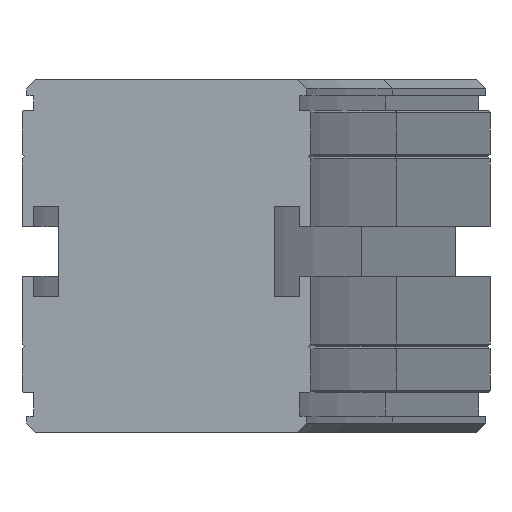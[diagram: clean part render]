
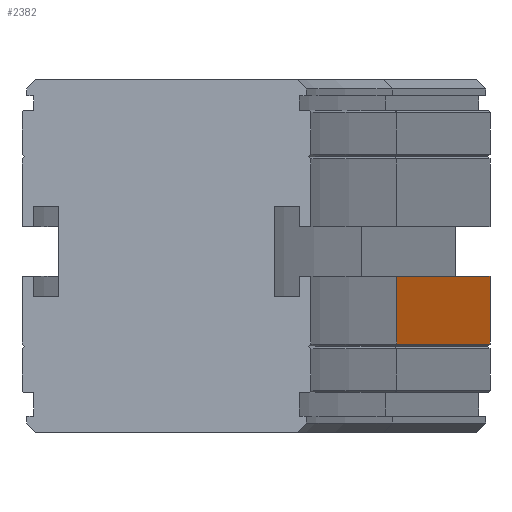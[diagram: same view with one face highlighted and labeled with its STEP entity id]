
A CAD part, left-side view. The second image highlights one B-rep face of the part: STEP entity #2382.
In plain terms, the highlighted planar face has unit normal (-0.259, -0.966, 0).
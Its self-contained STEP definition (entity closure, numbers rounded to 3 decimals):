
#2326=CARTESIAN_POINT('',(301.436,-71.685,-58.5));
#2327=VERTEX_POINT('',#2326);
#2334=CARTESIAN_POINT('',(224.162,-50.979,-58.5));
#2335=VERTEX_POINT('',#2334);
#2336=CARTESIAN_POINT('',(224.162,-50.979,-58.5));
#2337=DIRECTION('',(0.966,-0.259,0.0));
#2338=VECTOR('',#2337,80.);
#2339=LINE('',#2336,#2338);
#2340=EDGE_CURVE('',#2335,#2327,#2339,.T.);
#2352=CARTESIAN_POINT('',(224.162,-50.979,-58.5));
#2353=DIRECTION('',(-0.259,-0.966,0.));
#2354=DIRECTION('',(0.0,0.0,-1.0));
#2355=AXIS2_PLACEMENT_3D('',#2352,#2353,#2354);
#2356=PLANE('',#2355);
#2357=CARTESIAN_POINT('',(301.436,-71.685,-43.5));
#2358=VERTEX_POINT('',#2357);
#2359=CARTESIAN_POINT('',(301.436,-71.685,-58.5));
#2360=DIRECTION('',(0.0,0.0,1.0));
#2361=VECTOR('',#2360,15.);
#2362=LINE('',#2359,#2361);
#2363=EDGE_CURVE('',#2327,#2358,#2362,.T.);
#2364=ORIENTED_EDGE('',*,*,#2363,.T.);
#2365=CARTESIAN_POINT('',(224.162,-50.979,-43.5));
#2366=VERTEX_POINT('',#2365);
#2367=CARTESIAN_POINT('',(224.162,-50.979,-43.5));
#2368=DIRECTION('',(0.966,-0.259,0.0));
#2369=VECTOR('',#2368,80.);
#2370=LINE('',#2367,#2369);
#2371=EDGE_CURVE('',#2366,#2358,#2370,.T.);
#2372=ORIENTED_EDGE('',*,*,#2371,.F.);
#2373=CARTESIAN_POINT('',(224.162,-50.979,-58.5));
#2374=DIRECTION('',(0.0,0.0,1.0));
#2375=VECTOR('',#2374,15.);
#2376=LINE('',#2373,#2375);
#2377=EDGE_CURVE('',#2335,#2366,#2376,.T.);
#2378=ORIENTED_EDGE('',*,*,#2377,.F.);
#2379=ORIENTED_EDGE('',*,*,#2340,.T.);
#2380=EDGE_LOOP('',(#2364,#2372,#2378,#2379));
#2381=FACE_OUTER_BOUND('',#2380,.T.);
#2382=ADVANCED_FACE('',(#2381),#2356,.T.);
